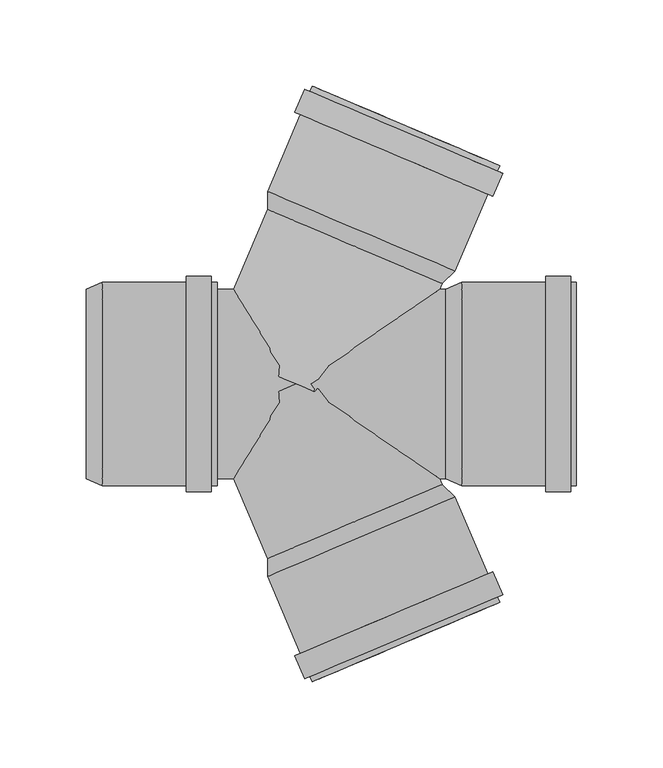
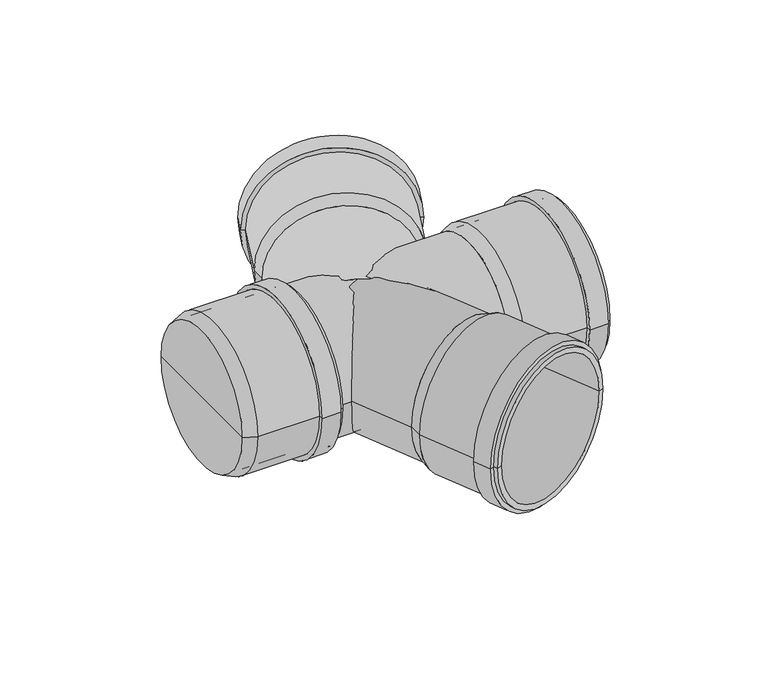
"""IFC4 building model written with IfcOpenShell, lengths in millimetres: pipe fitting geometry, pf_HTDA : pf_HTDA."""

from ifc_helpers import new_model, si_unit, point, frame, origin, origin_2d, place, context, project, spatial, polyline, circle_curve, trimmed, segment, composite_curve, outline, extrude, source, transform, mapped, element, save
from ifc_brep_helpers import plane_surface, cylinder_surface, revolved_surface, advanced_brep


def pipe_fitting_70a3d614(model_context):
    return source(origin(), model_context, "Body", "SolidModel", [
        advanced_brep(
        [(84.5432289, 58.4096092, 0.0), (-16.712305, 101.3900333, 0.0), (-16.7744292, 111.7368271, 0.0), (92.0292445, 65.5524077, 0.0), (33.915462, 79.8998213, 0.0), (118.0128646, 126.7659804, 0.0), (9.2091909, 172.9503998, 0.0), (12.9832608, 171.3484022, 0.0), (114.2387947, 128.3679781, 0.0), (116.6843787, 123.6362639, 0.0), (7.880705, 169.8206833, 0.0), (119.8140952, 122.3077781, 0.0), (4.7509885, 171.1491692, 0.0), (114.1484939, 108.9604577, 0.0), (-0.9146128, 157.8018488, 0.0), (111.0187774, 110.2889436, 0.0), (2.2151037, 156.473363, 0.0), (88.2551746, 67.1544053, 0.0), (-13.0003593, 110.1348295, 0.0), (37.6274077, 88.6446174, 0.0)],
        [
            (0, 1, circle_curve(frame((33.915462, 79.8998213, 0.0), z_axis=(0.39073112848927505, 0.9205048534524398, 0.0), x_axis=(-0.9205048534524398, 0.39073112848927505, 0.0)), 55.0)),
            (1, 2),
            (2, 3, circle_curve(frame((37.6274077, 88.6446174, 0.0), z_axis=(-0.39073112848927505, -0.9205048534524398, 0.0), x_axis=(-0.9205048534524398, 0.39073112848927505, 0.0)), 59.1)),
            (3, 0),
            (1, 0, circle_curve(frame((33.915462, 79.8998213, 0.0), z_axis=(0.39073112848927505, 0.9205048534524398, 0.0), x_axis=(-0.9205048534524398, 0.39073112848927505, 0.0)), 55.0)),
            (3, 2, circle_curve(frame((37.6274077, 88.6446174, 0.0), z_axis=(-0.39073112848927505, -0.9205048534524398, 0.0), x_axis=(-0.9205048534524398, 0.39073112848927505, 0.0)), 59.1)),
            (4, 1),
            (0, 4),
            (5, 6, circle_curve(frame((63.6110277, 149.8581901, 0.0), z_axis=(0.39073112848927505, 0.9205048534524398, 0.0), x_axis=(-0.9205048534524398, 0.39073112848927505, 0.0)), 59.1)),
            (6, 7),
            (7, 8, circle_curve(frame((63.6110277, 149.8581901, 0.0), z_axis=(-0.39073112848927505, -0.9205048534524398, 0.0), x_axis=(-0.9205048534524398, 0.39073112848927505, 0.0)), 55.0)),
            (8, 5),
            (6, 5, circle_curve(frame((63.6110277, 149.8581901, 0.0), z_axis=(0.39073112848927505, 0.9205048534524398, 0.0), x_axis=(-0.9205048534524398, 0.39073112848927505, 0.0)), 59.1)),
            (8, 7, circle_curve(frame((63.6110277, 149.8581901, 0.0), z_axis=(-0.39073112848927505, -0.9205048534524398, 0.0), x_axis=(-0.9205048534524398, 0.39073112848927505, 0.0)), 55.0)),
            (9, 10, circle_curve(frame((62.2825419, 146.7284736, 0.0), z_axis=(0.39073112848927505, 0.9205048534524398, 0.0), x_axis=(-0.9205048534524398, 0.39073112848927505, 0.0)), 59.1)),
            (10, 6),
            (5, 9),
            (10, 9, circle_curve(frame((62.2825419, 146.7284736, 0.0), z_axis=(0.39073112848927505, 0.9205048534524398, 0.0), x_axis=(-0.9205048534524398, 0.39073112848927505, 0.0)), 59.1)),
            (11, 12, circle_curve(frame((62.2825419, 146.7284736, 0.0), z_axis=(0.39073112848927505, 0.9205048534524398, 0.0), x_axis=(-0.9205048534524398, 0.39073112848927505, 0.0)), 62.5)),
            (12, 10),
            (9, 11),
            (12, 11, circle_curve(frame((62.2825419, 146.7284736, 0.0), z_axis=(0.39073112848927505, 0.9205048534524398, 0.0), x_axis=(-0.9205048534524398, 0.39073112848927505, 0.0)), 62.5)),
            (13, 14, circle_curve(frame((56.6169405, 133.3811533, 0.0), z_axis=(0.39073112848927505, 0.9205048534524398, 0.0), x_axis=(-0.9205048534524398, 0.39073112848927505, 0.0)), 62.5)),
            (14, 12),
            (11, 13),
            (14, 13, circle_curve(frame((56.6169405, 133.3811533, 0.0), z_axis=(0.39073112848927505, 0.9205048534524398, 0.0), x_axis=(-0.9205048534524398, 0.39073112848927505, 0.0)), 62.5)),
            (15, 16, circle_curve(frame((56.6169405, 133.3811533, 0.0), z_axis=(0.39073112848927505, 0.9205048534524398, 0.0), x_axis=(-0.9205048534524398, 0.39073112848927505, 0.0)), 59.1)),
            (16, 14),
            (13, 15),
            (16, 15, circle_curve(frame((56.6169405, 133.3811533, 0.0), z_axis=(0.39073112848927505, 0.9205048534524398, 0.0), x_axis=(-0.9205048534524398, 0.39073112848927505, 0.0)), 59.1)),
            (2, 16),
            (15, 3),
            (17, 18, circle_curve(frame((37.6274077, 88.6446174, 0.0), z_axis=(0.39073112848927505, 0.9205048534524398, 0.0), x_axis=(-0.9205048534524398, 0.39073112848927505, 0.0)), 55.0)),
            (18, 19),
            (19, 17),
            (18, 17, circle_curve(frame((37.6274077, 88.6446174, 0.0), z_axis=(0.39073112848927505, 0.9205048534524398, 0.0), x_axis=(-0.9205048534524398, 0.39073112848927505, 0.0)), 55.0)),
            (7, 18),
            (17, 8),
        ],
        [
            revolved_surface(polyline([(-16.7744292, 111.7368271, 0.0), (-16.712305, 101.3900333, 0.0)]), (33.915462, 79.8998213, 0.0), (-0.39073112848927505, -0.9205048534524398, 0.0)),
            plane_surface(frame((33.915462, 79.8998213, 0.0), z_axis=(-0.39073112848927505, -0.9205048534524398, 0.0), x_axis=(-0.9205048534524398, 0.39073112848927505, 0.0))),
            plane_surface(frame((63.6110277, 149.8581901, 0.0), z_axis=(0.39073112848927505, 0.9205048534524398, 0.0), x_axis=(-0.9205048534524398, 0.39073112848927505, 0.0))),
            cylinder_surface(frame((33.915462, 79.8998213, 0.0), z_axis=(-0.39073112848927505, -0.9205048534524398, 0.0), x_axis=(-0.9205048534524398, 0.39073112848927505, 0.0)), 59.1),
            plane_surface(frame((62.2825419, 146.7284736, 0.0), z_axis=(0.39073112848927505, 0.9205048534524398, 0.0), x_axis=(-0.9205048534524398, 0.39073112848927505, 0.0))),
            cylinder_surface(frame((33.915462, 79.8998213, 0.0), z_axis=(-0.39073112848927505, -0.9205048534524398, 0.0), x_axis=(-0.9205048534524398, 0.39073112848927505, 0.0)), 62.5),
            plane_surface(frame((56.6169405, 133.3811533, 0.0), z_axis=(-0.39073112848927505, -0.9205048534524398, 0.0), x_axis=(-0.9205048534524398, 0.39073112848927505, 0.0))),
            plane_surface(frame((37.6274077, 88.6446174, 0.0), z_axis=(0.39073112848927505, 0.9205048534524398, 0.0), x_axis=(-0.9205048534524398, 0.39073112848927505, 0.0))),
            revolved_surface(polyline([(-13.000359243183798, 110.13482941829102, 0.0), (12.983260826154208, 171.34840223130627, 0.0)]), (33.915462, 79.8998213, 0.0), (-0.39073112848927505, -0.9205048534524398, 0.0)),
        ],
        [
            (0, [[1, 2, 3, 4]]),
            (0, [[5, -4, 6, -2]]),
            (1, [[7, -1, 8]]),
            (1, [[-8, -5, -7]]),
            (2, [[9, 10, 11, 12]]),
            (2, [[13, -12, 14, -10]]),
            (3, [[15, 16, -9, 17]]),
            (3, [[18, -17, -13, -16]]),
            (4, [[19, 20, -15, 21]]),
            (4, [[22, -21, -18, -20]]),
            (5, [[23, 24, -19, 25]]),
            (5, [[26, -25, -22, -24]]),
            (6, [[27, 28, -23, 29]]),
            (6, [[30, -29, -26, -28]]),
            (3, [[-3, 31, -27, 32]]),
            (3, [[-6, -32, -30, -31]]),
            (7, [[33, 34, 35]]),
            (7, [[36, -35, -34]]),
            (8, [[-11, 37, -33, 38]]),
            (8, [[-14, -38, -36, -37]]),
        ],
    ),
        advanced_brep(
        [(-16.712305, -101.3900333, 0.0), (84.5432289, -58.4096092, 0.0), (92.0292445, -65.5524077, 0.0), (-16.7744292, -111.7368271, 0.0), (33.915462, -79.8998213, 0.0), (9.2091909, -172.9503998, 0.0), (118.0128646, -126.7659804, 0.0), (114.2387947, -128.3679781, 0.0), (12.9832608, -171.3484022, 0.0), (7.880705, -169.8206833, 0.0), (116.6843787, -123.6362639, 0.0), (4.7509885, -171.1491692, 0.0), (119.8140952, -122.3077781, 0.0), (-0.9146128, -157.8018488, 0.0), (114.1484939, -108.9604577, 0.0), (2.2151037, -156.473363, 0.0), (111.0187774, -110.2889436, 0.0), (-13.0003593, -110.1348295, 0.0), (88.2551746, -67.1544053, 0.0), (37.6274077, -88.6446174, 0.0)],
        [
            (0, 1, circle_curve(frame((33.915462, -79.8998213, 0.0), z_axis=(0.3907311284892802, -0.9205048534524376, 0.0), x_axis=(0.9205048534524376, 0.3907311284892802, 0.0)), 55.0)),
            (1, 2),
            (2, 3, circle_curve(frame((37.6274077, -88.6446174, 0.0), z_axis=(-0.3907311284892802, 0.9205048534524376, 0.0), x_axis=(0.9205048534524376, 0.3907311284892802, 0.0)), 59.1)),
            (3, 0),
            (1, 0, circle_curve(frame((33.915462, -79.8998213, 0.0), z_axis=(0.3907311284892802, -0.9205048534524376, 0.0), x_axis=(0.9205048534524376, 0.3907311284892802, 0.0)), 55.0)),
            (3, 2, circle_curve(frame((37.6274077, -88.6446174, 0.0), z_axis=(-0.3907311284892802, 0.9205048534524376, 0.0), x_axis=(0.9205048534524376, 0.3907311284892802, 0.0)), 59.1)),
            (4, 1),
            (0, 4),
            (5, 6, circle_curve(frame((63.6110277, -149.8581901, 0.0), z_axis=(0.3907311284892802, -0.9205048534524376, 0.0), x_axis=(0.9205048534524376, 0.3907311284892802, 0.0)), 59.1)),
            (6, 7),
            (7, 8, circle_curve(frame((63.6110277, -149.8581901, 0.0), z_axis=(-0.3907311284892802, 0.9205048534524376, 0.0), x_axis=(0.9205048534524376, 0.3907311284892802, 0.0)), 55.0)),
            (8, 5),
            (6, 5, circle_curve(frame((63.6110277, -149.8581901, 0.0), z_axis=(0.3907311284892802, -0.9205048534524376, 0.0), x_axis=(0.9205048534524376, 0.3907311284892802, 0.0)), 59.1)),
            (8, 7, circle_curve(frame((63.6110277, -149.8581901, 0.0), z_axis=(-0.3907311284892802, 0.9205048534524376, 0.0), x_axis=(0.9205048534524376, 0.3907311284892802, 0.0)), 55.0)),
            (9, 10, circle_curve(frame((62.2825419, -146.7284736, 0.0), z_axis=(0.3907311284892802, -0.9205048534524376, 0.0), x_axis=(0.9205048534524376, 0.3907311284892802, 0.0)), 59.1)),
            (10, 6),
            (5, 9),
            (10, 9, circle_curve(frame((62.2825419, -146.7284736, 0.0), z_axis=(0.3907311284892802, -0.9205048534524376, 0.0), x_axis=(0.9205048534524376, 0.3907311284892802, 0.0)), 59.1)),
            (11, 12, circle_curve(frame((62.2825419, -146.7284736, 0.0), z_axis=(0.3907311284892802, -0.9205048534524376, 0.0), x_axis=(0.9205048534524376, 0.3907311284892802, 0.0)), 62.5)),
            (12, 10),
            (9, 11),
            (12, 11, circle_curve(frame((62.2825419, -146.7284736, 0.0), z_axis=(0.3907311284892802, -0.9205048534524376, 0.0), x_axis=(0.9205048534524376, 0.3907311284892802, 0.0)), 62.5)),
            (13, 14, circle_curve(frame((56.6169405, -133.3811533, 0.0), z_axis=(0.3907311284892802, -0.9205048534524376, 0.0), x_axis=(0.9205048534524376, 0.3907311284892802, 0.0)), 62.5)),
            (14, 12),
            (11, 13),
            (14, 13, circle_curve(frame((56.6169405, -133.3811533, 0.0), z_axis=(0.3907311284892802, -0.9205048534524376, 0.0), x_axis=(0.9205048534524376, 0.3907311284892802, 0.0)), 62.5)),
            (15, 16, circle_curve(frame((56.6169405, -133.3811533, 0.0), z_axis=(0.3907311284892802, -0.9205048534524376, 0.0), x_axis=(0.9205048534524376, 0.3907311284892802, 0.0)), 59.1)),
            (16, 14),
            (13, 15),
            (16, 15, circle_curve(frame((56.6169405, -133.3811533, 0.0), z_axis=(0.3907311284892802, -0.9205048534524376, 0.0), x_axis=(0.9205048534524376, 0.3907311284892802, 0.0)), 59.1)),
            (2, 16),
            (15, 3),
            (17, 18, circle_curve(frame((37.6274077, -88.6446174, 0.0), z_axis=(0.3907311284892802, -0.9205048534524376, 0.0), x_axis=(0.9205048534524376, 0.3907311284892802, 0.0)), 55.0)),
            (18, 19),
            (19, 17),
            (18, 17, circle_curve(frame((37.6274077, -88.6446174, 0.0), z_axis=(0.3907311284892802, -0.9205048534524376, 0.0), x_axis=(0.9205048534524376, 0.3907311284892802, 0.0)), 55.0)),
            (7, 18),
            (17, 8),
        ],
        [
            revolved_surface(polyline([(92.0292445, -65.5524077, 0.0), (84.5432289, -58.4096092, 0.0)]), (33.915462, -79.8998213, 0.0), (-0.3907311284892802, 0.9205048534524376, 0.0)),
            plane_surface(frame((33.915462, -79.8998213, 0.0), z_axis=(-0.3907311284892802, 0.9205048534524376, 0.0), x_axis=(0.9205048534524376, 0.3907311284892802, 0.0))),
            plane_surface(frame((63.6110277, -149.8581901, 0.0), z_axis=(0.3907311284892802, -0.9205048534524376, 0.0), x_axis=(0.9205048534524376, 0.3907311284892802, 0.0))),
            cylinder_surface(frame((33.915462, -79.8998213, 0.0), z_axis=(-0.3907311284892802, 0.9205048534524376, 0.0), x_axis=(0.9205048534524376, 0.3907311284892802, 0.0)), 59.1),
            plane_surface(frame((62.2825419, -146.7284736, 0.0), z_axis=(0.3907311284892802, -0.9205048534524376, 0.0), x_axis=(0.9205048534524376, 0.3907311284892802, 0.0))),
            cylinder_surface(frame((33.915462, -79.8998213, 0.0), z_axis=(-0.3907311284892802, 0.9205048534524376, 0.0), x_axis=(0.9205048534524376, 0.3907311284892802, 0.0)), 62.5),
            plane_surface(frame((56.6169405, -133.3811533, 0.0), z_axis=(-0.3907311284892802, 0.9205048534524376, 0.0), x_axis=(0.9205048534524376, 0.3907311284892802, 0.0))),
            plane_surface(frame((37.6274077, -88.6446174, 0.0), z_axis=(0.3907311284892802, -0.9205048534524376, 0.0), x_axis=(0.9205048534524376, 0.3907311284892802, 0.0))),
            revolved_surface(polyline([(88.25517463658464, -67.15440528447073, 0.0), (114.23879470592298, -128.36797809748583, 0.0)]), (33.915462, -79.8998213, 0.0), (-0.3907311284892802, 0.9205048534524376, 0.0)),
        ],
        [
            (0, [[1, 2, 3, 4]]),
            (0, [[5, -4, 6, -2]]),
            (1, [[7, -1, 8]]),
            (1, [[-8, -5, -7]]),
            (2, [[9, 10, 11, 12]]),
            (2, [[13, -12, 14, -10]]),
            (3, [[15, 16, -9, 17]]),
            (3, [[18, -17, -13, -16]]),
            (4, [[19, 20, -15, 21]]),
            (4, [[22, -21, -18, -20]]),
            (5, [[23, 24, -19, 25]]),
            (5, [[26, -25, -22, -24]]),
            (6, [[27, 28, -23, 29]]),
            (6, [[30, -29, -26, -28]]),
            (3, [[-3, 31, -27, 32]]),
            (3, [[-6, -32, -30, -31]]),
            (7, [[33, 34, 35]]),
            (7, [[36, -35, -34]]),
            (8, [[-11, 37, -33, 38]]),
            (8, [[-14, -38, -36, -37]]),
        ],
    ),
        advanced_brep(
        [(86.6, -55.0, 0.0), (86.6, 55.0, 0.0), (96.1, 59.1, 0.0), (96.1, -59.1, 0.0), (86.6, 0.0, 0.0), (162.6, -59.1, 0.0), (162.6, 59.1, 0.0), (162.6, 55.0, 0.0), (162.6, -55.0, 0.0), (159.2, -59.1, 0.0), (159.2, 59.1, 0.0), (159.2, -62.5, 0.0), (159.2, 62.5, 0.0), (144.7, -62.5, 0.0), (144.7, 62.5, 0.0), (144.7, -59.1, 0.0), (144.7, 59.1, 0.0), (96.1, -55.0, 0.0), (96.1, 55.0, 0.0), (96.1, 0.0, 0.0)],
        [
            (0, 1, circle_curve(frame((86.6, 0.0, 0.0), z_axis=(1.0, 0.0, 0.0), x_axis=(0.0, 1.0, 0.0)), 55.0)),
            (1, 2),
            (2, 3, circle_curve(frame((96.1, 0.0, 0.0), z_axis=(-1.0, 0.0, 0.0), x_axis=(0.0, 1.0, 0.0)), 59.1)),
            (3, 0),
            (1, 0, circle_curve(frame((86.6, 0.0, 0.0), z_axis=(1.0, 0.0, 0.0), x_axis=(0.0, 1.0, 0.0)), 55.0)),
            (3, 2, circle_curve(frame((96.1, 0.0, 0.0), z_axis=(-1.0, 0.0, 0.0), x_axis=(0.0, 1.0, 0.0)), 59.1)),
            (4, 1),
            (0, 4),
            (5, 6, circle_curve(frame((162.6, 0.0, 0.0), z_axis=(1.0, 0.0, 0.0), x_axis=(0.0, 1.0, 0.0)), 59.1)),
            (6, 7),
            (7, 8, circle_curve(frame((162.6, 0.0, 0.0), z_axis=(-1.0, 0.0, 0.0), x_axis=(0.0, 1.0, 0.0)), 55.0)),
            (8, 5),
            (6, 5, circle_curve(frame((162.6, 0.0, 0.0), z_axis=(1.0, 0.0, 0.0), x_axis=(0.0, 1.0, 0.0)), 59.1)),
            (8, 7, circle_curve(frame((162.6, 0.0, 0.0), z_axis=(-1.0, 0.0, 0.0), x_axis=(0.0, 1.0, 0.0)), 55.0)),
            (9, 10, circle_curve(frame((159.2, 0.0, 0.0), z_axis=(1.0, 0.0, 0.0), x_axis=(0.0, 1.0, 0.0)), 59.1)),
            (10, 6),
            (5, 9),
            (10, 9, circle_curve(frame((159.2, 0.0, 0.0), z_axis=(1.0, 0.0, 0.0), x_axis=(0.0, 1.0, 0.0)), 59.1)),
            (11, 12, circle_curve(frame((159.2, 0.0, 0.0), z_axis=(1.0, 0.0, 0.0), x_axis=(0.0, 1.0, 0.0)), 62.5)),
            (12, 10),
            (9, 11),
            (12, 11, circle_curve(frame((159.2, 0.0, 0.0), z_axis=(1.0, 0.0, 0.0), x_axis=(0.0, 1.0, 0.0)), 62.5)),
            (13, 14, circle_curve(frame((144.7, 0.0, 0.0), z_axis=(1.0, 0.0, 0.0), x_axis=(0.0, 1.0, 0.0)), 62.5)),
            (14, 12),
            (11, 13),
            (14, 13, circle_curve(frame((144.7, 0.0, 0.0), z_axis=(1.0, 0.0, 0.0), x_axis=(0.0, 1.0, 0.0)), 62.5)),
            (15, 16, circle_curve(frame((144.7, 0.0, 0.0), z_axis=(1.0, 0.0, 0.0), x_axis=(0.0, 1.0, 0.0)), 59.1)),
            (16, 14),
            (13, 15),
            (16, 15, circle_curve(frame((144.7, 0.0, 0.0), z_axis=(1.0, 0.0, 0.0), x_axis=(0.0, 1.0, 0.0)), 59.1)),
            (2, 16),
            (15, 3),
            (17, 18, circle_curve(frame((96.1, 0.0, 0.0), z_axis=(1.0, 0.0, 0.0), x_axis=(0.0, 1.0, 0.0)), 55.0)),
            (18, 19),
            (19, 17),
            (18, 17, circle_curve(frame((96.1, 0.0, 0.0), z_axis=(1.0, 0.0, 0.0), x_axis=(0.0, 1.0, 0.0)), 55.0)),
            (7, 18),
            (17, 8),
        ],
        [
            revolved_surface(polyline([(96.1, 59.1, 0.0), (86.6, 55.0, 0.0)]), (86.6, 0.0, 0.0), (-1.0, 0.0, 0.0)),
            plane_surface(frame((86.6, 0.0, 0.0), z_axis=(-1.0, 0.0, 0.0), x_axis=(0.0, 1.0, 0.0))),
            plane_surface(frame((162.6, 0.0, 0.0), z_axis=(1.0, 0.0, 0.0), x_axis=(0.0, 1.0, 0.0))),
            cylinder_surface(frame((86.6, 0.0, 0.0), z_axis=(-1.0, 0.0, 0.0), x_axis=(0.0, 1.0, 0.0)), 59.1),
            plane_surface(frame((159.2, 0.0, 0.0), z_axis=(1.0, 0.0, 0.0), x_axis=(0.0, 1.0, 0.0))),
            cylinder_surface(frame((86.6, 0.0, 0.0), z_axis=(-1.0, 0.0, 0.0), x_axis=(0.0, 1.0, 0.0)), 62.5),
            plane_surface(frame((144.7, 0.0, 0.0), z_axis=(-1.0, 0.0, 0.0), x_axis=(0.0, 1.0, 0.0))),
            plane_surface(frame((96.1, 0.0, 0.0), z_axis=(1.0, 0.0, 0.0), x_axis=(0.0, 1.0, 0.0))),
            revolved_surface(polyline([(96.1, 55.0, 0.0), (162.6, 55.0, 0.0)]), (86.6, 0.0, 0.0), (-1.0, 0.0, 0.0)),
        ],
        [
            (0, [[1, 2, 3, 4]]),
            (0, [[5, -4, 6, -2]]),
            (1, [[7, -1, 8]]),
            (1, [[-8, -5, -7]]),
            (2, [[9, 10, 11, 12]]),
            (2, [[13, -12, 14, -10]]),
            (3, [[15, 16, -9, 17]]),
            (3, [[18, -17, -13, -16]]),
            (4, [[19, 20, -15, 21]]),
            (4, [[22, -21, -18, -20]]),
            (5, [[23, 24, -19, 25]]),
            (5, [[26, -25, -22, -24]]),
            (6, [[27, 28, -23, 29]]),
            (6, [[30, -29, -26, -28]]),
            (3, [[-3, 31, -27, 32]]),
            (3, [[-6, -32, -30, -31]]),
            (7, [[33, 34, 35]]),
            (7, [[36, -35, -34]]),
            (8, [[-11, 37, -33, 38]]),
            (8, [[-14, -38, -36, -37]]),
        ],
    ),
        advanced_brep(
        [(-122.1, -55.0, 0.0), (-122.1, 55.0, 0.0), (-112.6, 59.1, 0.0), (-112.6, -59.1, 0.0), (-122.1, 0.0, 0.0), (-46.1, -59.1, 0.0), (-46.1, 59.1, 0.0), (-46.1, 55.0, 0.0), (-46.1, -55.0, 0.0), (-49.5, -59.1, 0.0), (-49.5, 59.1, 0.0), (-49.5, -62.5, 0.0), (-49.5, 62.5, 0.0), (-64.0, -62.5, 0.0), (-64.0, 62.5, 0.0), (-64.0, -59.1, 0.0), (-64.0, 59.1, 0.0), (-112.6, -55.0, 0.0), (-112.6, 55.0, 0.0), (-112.6, 0.0, 0.0)],
        [
            (0, 1, circle_curve(frame((-122.1, 0.0, 0.0), z_axis=(1.0, 0.0, 0.0), x_axis=(0.0, 1.0, 0.0)), 55.0)),
            (1, 2),
            (2, 3, circle_curve(frame((-112.6, 0.0, 0.0), z_axis=(-1.0, 0.0, 0.0), x_axis=(0.0, 1.0, 0.0)), 59.1)),
            (3, 0),
            (1, 0, circle_curve(frame((-122.1, 0.0, 0.0), z_axis=(1.0, 0.0, 0.0), x_axis=(0.0, 1.0, 0.0)), 55.0)),
            (3, 2, circle_curve(frame((-112.6, 0.0, 0.0), z_axis=(-1.0, 0.0, 0.0), x_axis=(0.0, 1.0, 0.0)), 59.1)),
            (4, 1),
            (0, 4),
            (5, 6, circle_curve(frame((-46.1, 0.0, 0.0), z_axis=(1.0, 0.0, 0.0), x_axis=(0.0, 1.0, 0.0)), 59.1)),
            (6, 7),
            (7, 8, circle_curve(frame((-46.1, 0.0, 0.0), z_axis=(-1.0, 0.0, 0.0), x_axis=(0.0, 1.0, 0.0)), 55.0)),
            (8, 5),
            (6, 5, circle_curve(frame((-46.1, 0.0, 0.0), z_axis=(1.0, 0.0, 0.0), x_axis=(0.0, 1.0, 0.0)), 59.1)),
            (8, 7, circle_curve(frame((-46.1, 0.0, 0.0), z_axis=(-1.0, 0.0, 0.0), x_axis=(0.0, 1.0, 0.0)), 55.0)),
            (9, 10, circle_curve(frame((-49.5, 0.0, 0.0), z_axis=(1.0, 0.0, 0.0), x_axis=(0.0, 1.0, 0.0)), 59.1)),
            (10, 6),
            (5, 9),
            (10, 9, circle_curve(frame((-49.5, 0.0, 0.0), z_axis=(1.0, 0.0, 0.0), x_axis=(0.0, 1.0, 0.0)), 59.1)),
            (11, 12, circle_curve(frame((-49.5, 0.0, 0.0), z_axis=(1.0, 0.0, 0.0), x_axis=(0.0, 1.0, 0.0)), 62.5)),
            (12, 10),
            (9, 11),
            (12, 11, circle_curve(frame((-49.5, 0.0, 0.0), z_axis=(1.0, 0.0, 0.0), x_axis=(0.0, 1.0, 0.0)), 62.5)),
            (13, 14, circle_curve(frame((-64.0, 0.0, 0.0), z_axis=(1.0, 0.0, 0.0), x_axis=(0.0, 1.0, 0.0)), 62.5)),
            (14, 12),
            (11, 13),
            (14, 13, circle_curve(frame((-64.0, 0.0, 0.0), z_axis=(1.0, 0.0, 0.0), x_axis=(0.0, 1.0, 0.0)), 62.5)),
            (15, 16, circle_curve(frame((-64.0, 0.0, 0.0), z_axis=(1.0, 0.0, 0.0), x_axis=(0.0, 1.0, 0.0)), 59.1)),
            (16, 14),
            (13, 15),
            (16, 15, circle_curve(frame((-64.0, 0.0, 0.0), z_axis=(1.0, 0.0, 0.0), x_axis=(0.0, 1.0, 0.0)), 59.1)),
            (2, 16),
            (15, 3),
            (17, 18, circle_curve(frame((-112.6, 0.0, 0.0), z_axis=(1.0, 0.0, 0.0), x_axis=(0.0, 1.0, 0.0)), 55.0)),
            (18, 19),
            (19, 17),
            (18, 17, circle_curve(frame((-112.6, 0.0, 0.0), z_axis=(1.0, 0.0, 0.0), x_axis=(0.0, 1.0, 0.0)), 55.0)),
            (7, 18),
            (17, 8),
        ],
        [
            revolved_surface(polyline([(-112.6, 59.1, 0.0), (-122.1, 55.0, 0.0)]), (-122.1, 0.0, 0.0), (-1.0, 0.0, 0.0)),
            plane_surface(frame((-122.1, 0.0, 0.0), z_axis=(-1.0, 0.0, 0.0), x_axis=(0.0, 1.0, 0.0))),
            plane_surface(frame((-46.1, 0.0, 0.0), z_axis=(1.0, 0.0, 0.0), x_axis=(0.0, 1.0, 0.0))),
            cylinder_surface(frame((-122.1, 0.0, 0.0), z_axis=(-1.0, 0.0, 0.0), x_axis=(0.0, 1.0, 0.0)), 59.1),
            plane_surface(frame((-49.5, 0.0, 0.0), z_axis=(1.0, 0.0, 0.0), x_axis=(0.0, 1.0, 0.0))),
            cylinder_surface(frame((-122.1, 0.0, 0.0), z_axis=(-1.0, 0.0, 0.0), x_axis=(0.0, 1.0, 0.0)), 62.5),
            plane_surface(frame((-64.0, 0.0, 0.0), z_axis=(-1.0, 0.0, 0.0), x_axis=(0.0, 1.0, 0.0))),
            plane_surface(frame((-112.6, 0.0, 0.0), z_axis=(1.0, 0.0, 0.0), x_axis=(0.0, 1.0, 0.0))),
            revolved_surface(polyline([(-112.6, 55.0, 0.0), (-46.099999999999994, 55.0, 0.0)]), (-122.1, 0.0, 0.0), (-1.0, 0.0, 0.0)),
        ],
        [
            (0, [[1, 2, 3, 4]]),
            (0, [[5, -4, 6, -2]]),
            (1, [[7, -1, 8]]),
            (1, [[-8, -5, -7]]),
            (2, [[9, 10, 11, 12]]),
            (2, [[13, -12, 14, -10]]),
            (3, [[15, 16, -9, 17]]),
            (3, [[18, -17, -13, -16]]),
            (4, [[19, 20, -15, 21]]),
            (4, [[22, -21, -18, -20]]),
            (5, [[23, 24, -19, 25]]),
            (5, [[26, -25, -22, -24]]),
            (6, [[27, 28, -23, 29]]),
            (6, [[30, -29, -26, -28]]),
            (3, [[-3, 31, -27, 32]]),
            (3, [[-6, -32, -30, -31]]),
            (7, [[33, 34, 35]]),
            (7, [[36, -35, -34]]),
            (8, [[-11, 37, -33, 38]]),
            (8, [[-14, -38, -36, -37]]),
        ],
    ),
        extrude(outline(composite_curve([segment(trimmed(circle_curve(origin_2d(), 55.0), [point((0.0, 55.0))], [point((0.0, -55.0))], False, "CARTESIAN"), True, "CONTINUOUS"), segment(trimmed(circle_curve(origin_2d(), 55.0), [point((0.0, -55.0))], [point((0.0, 55.0))], False, "CARTESIAN"), True, "CONTINUOUS")], self_intersect=False)), frame((0.0, 0.0, 0.0), z_axis=(0.3907311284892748, 0.9205048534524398, 0.0), x_axis=(0.0, 0.0, 1.0)), (0.0, 0.0, 1.0), 86.8),
        extrude(outline(composite_curve([segment(trimmed(circle_curve(origin_2d(), 55.0), [point((0.0, -55.0))], [point((0.0, 55.0))], False, "CARTESIAN"), True, "CONTINUOUS"), segment(trimmed(circle_curve(origin_2d(), 55.0), [point((0.0, 55.0))], [point((0.0, -55.0))], False, "CARTESIAN"), True, "CONTINUOUS")], self_intersect=False)), frame((33.915462, -79.8998213, 0.0), z_axis=(-0.39073112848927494, 0.9205048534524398, 0.0), x_axis=(0.0, 0.0, 1.0)), (0.0, 0.0, 1.0), 86.8),
        extrude(outline(composite_curve([segment(trimmed(circle_curve(origin_2d(), 55.0), [point((-55.0, 0.0))], [point((55.0, 0.0))], False, "CARTESIAN"), True, "CONTINUOUS"), segment(trimmed(circle_curve(origin_2d(), 55.0), [point((55.0, 0.0))], [point((-55.0, 0.0))], False, "CARTESIAN"), True, "CONTINUOUS")], self_intersect=False)), frame((-112.6, 0.0, 0.0), z_axis=(1.0, 0.0, 0.0), x_axis=(0.0, 1.0, 0.0)), (0.0, 0.0, 1.0), 199.2),
    ])


if __name__ == "__main__":
    model = new_model("IFC4")
    model_context = context("Model", 3, world=origin())
    ifc_project = project(units=[si_unit("LENGTHUNIT", "METRE", prefix="MILLI")], contexts=[model_context])
    site = spatial("IfcSite", under=ifc_project)
    building = spatial("IfcBuilding", under=site)
    placement = place(None, origin())
    pipe_fitting_shape = pipe_fitting_70a3d614(model_context)
    element("IfcPipeFitting", 1, ObjectType="pf_HTDA : pf_HTDA", at=placement, inside=building, context=model_context, shape_type="MappedRepresentation", body=[
        mapped(pipe_fitting_shape, transform((0.0, 0.0, 0.0), x_axis=(1.0, 0.0, 0.0), y_axis=(0.0, 1.0, 0.0), z_axis=(0.0, 0.0, 1.0))),
    ])
    save(model, "model.ifc")
